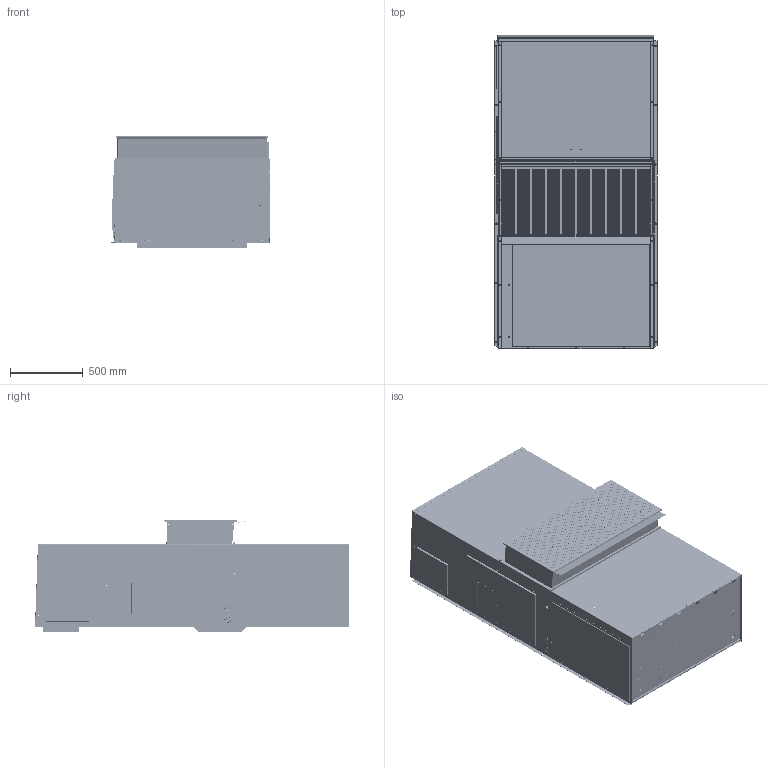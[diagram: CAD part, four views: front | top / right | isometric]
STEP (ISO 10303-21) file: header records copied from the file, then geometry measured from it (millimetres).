
FILE_DESCRIPTION (( 'STEP AP203' ), '1' );
FILE_NAME ('STEP_1100_7.STEP', '2016-06-24T20:06:35', ( 'BMC' ), ( 'Bard Manufacturing Co., Inc.' ), 'SwSTEP 2.0', 'SolidWorks 2016', '' );
FILE_SCHEMA (( 'CONFIG_CONTROL_DESIGN' ));
Products named in the file (1): STEP_1100_7
Bounding box: 1114.22 x 2155.67 x 769.85 mm (x, y, z)
Volume: 41936830.1 mm3; surface area: 23008955.6 mm2
Topology: 96 solids, 96 shells, 11452 faces, 30210 edges, 19074 vertices
Faces by surface type: plane 5396, cylinder 2931, bspline 2680, cone 196, torus 158, sphere 91
Entity records: 468875 total; most frequent: CARTESIAN_POINT 206873, ORIENTED_EDGE 60300, DIRECTION 44879, EDGE_CURVE 30150, VERTEX_POINT 19065, VECTOR 17183, LINE 17183, AXIS2_PLACEMENT_3D 13848
